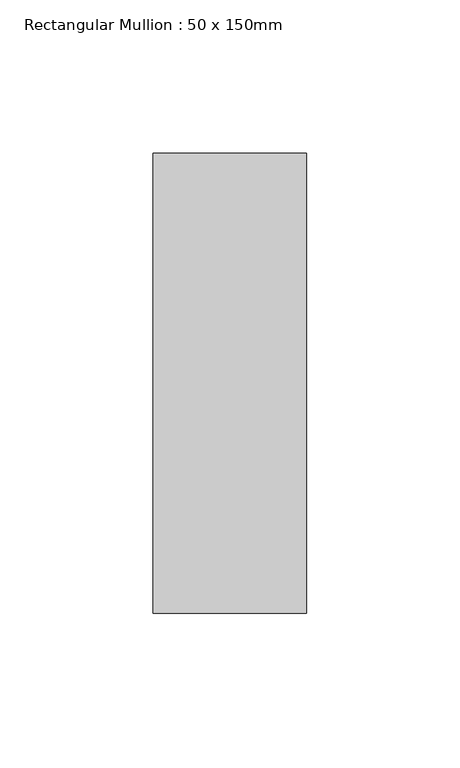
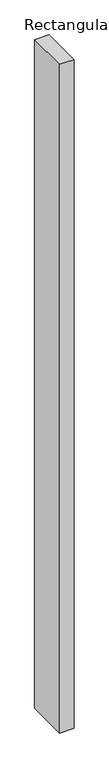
"""IFC4 building model written with IfcOpenShell, lengths in millimetres: member geometry, Rectangular Mullion : 50 x 150mm."""

from ifc_helpers import new_model, si_unit, frame, origin, place, context, project, spatial, polyline, outline, extrude, source, transform, mapped, element, save


def rectangular_mullion_50_x_150mm_703a751b(model_context):
    return source(origin(), model_context, "Body", "SweptSolid", [
        extrude(outline(polyline([(25.0, 75.0), (25.0, -75.0), (-25.0, -75.0), (-25.0, 75.0), (25.0, 75.0)])), frame((0.0, 0.0, -2451.2733623), z_axis=(0.0, 0.0, 1.0), x_axis=(1.0, 0.0, 0.0)), (0.0, 0.0, 1.0), 2451.2733623),
    ])


if __name__ == "__main__":
    model = new_model("IFC4")
    model_context = context("Model", 3, world=origin())
    ifc_project = project(units=[si_unit("LENGTHUNIT", "METRE", prefix="MILLI")], contexts=[model_context])
    site = spatial("IfcSite", under=ifc_project)
    building = spatial("IfcBuilding", under=site)
    placement = place(None, origin())
    rectangular_mullion_50_x_150mm_shape = rectangular_mullion_50_x_150mm_703a751b(model_context)
    element("IfcMember", 1, ObjectType="Rectangular Mullion : 50 x 150mm", at=placement, inside=building, context=model_context, shape_type="MappedRepresentation", body=[
        mapped(rectangular_mullion_50_x_150mm_shape, transform((0.0, 0.0, 0.0), x_axis=(1.0, 0.0, 0.0), y_axis=(0.0, 1.0, 0.0), z_axis=(0.0, 0.0, 1.0))),
    ])
    save(model, "model.ifc")
